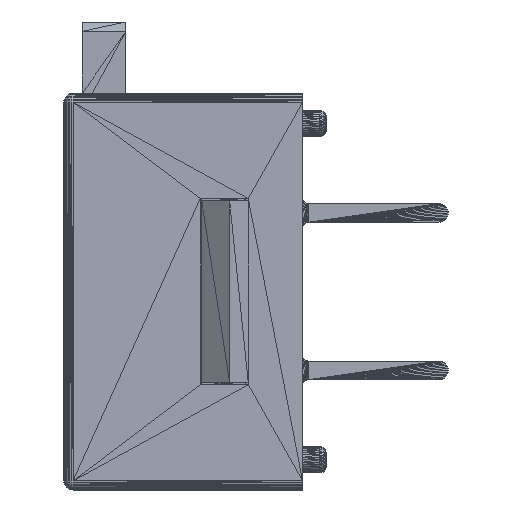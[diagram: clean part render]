
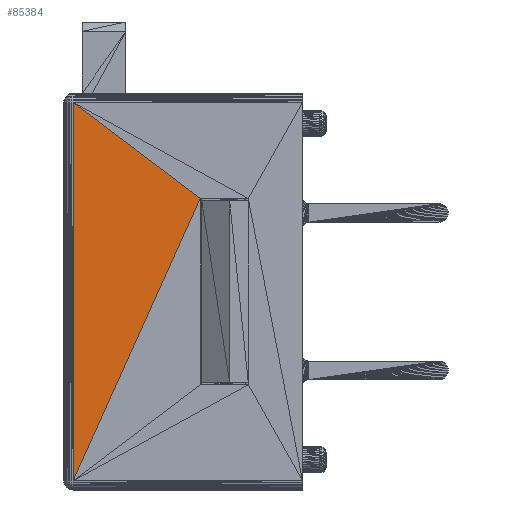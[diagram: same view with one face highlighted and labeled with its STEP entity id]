
A CAD part, left-side view. The second image highlights one B-rep face of the part: STEP entity #85384.
In plain terms, the highlighted planar face has unit normal (-1, 0, 0).
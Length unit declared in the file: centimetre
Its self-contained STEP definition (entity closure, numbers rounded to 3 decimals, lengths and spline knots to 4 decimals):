
#1792=DIRECTION('',(0.,0.798,0.603));
#1795=DIRECTION('',(0.,0.411,-0.912));
#2199=DIRECTION('',(0.,0.,1.));
#6272=VECTOR('',#1792,1.);
#6275=VECTOR('',#1795,1.);
#6679=VECTOR('',#2199,1.);
#11687=CARTESIAN_POINT('',(-0.7,0.33,0.3));
#11729=CARTESIAN_POINT('',(-0.7,0.74,-0.61));
#11730=CARTESIAN_POINT('',(-0.7,0.74,0.61));
#15453=VERTEX_POINT('',#11687);
#15495=VERTEX_POINT('',#11729);
#15496=VERTEX_POINT('',#11730);
#20944=LINE('',#11687,#6275);
#20994=LINE('',#11687,#6272);
#21092=LINE('',#11729,#6679);
#30551=EDGE_CURVE('',#15453,#15495,#20944,.T.);
#30601=EDGE_CURVE('',#15453,#15496,#20994,.T.);
#30699=EDGE_CURVE('',#15495,#15496,#21092,.T.);
#40208=ORIENTED_EDGE('',*,*,#30601,.T.);
#49765=ORIENTED_EDGE('',*,*,#30551,.F.);
#49913=ORIENTED_EDGE('',*,*,#30699,.F.);
#57789=EDGE_LOOP('',(#40208,#49913,#49765));
#63308=FACE_OUTER_BOUND('',#57789,.T.);
#71542=DIRECTION('',(-1.,0.,0.));
#71543=AXIS2_PLACEMENT_3D('',#11687,#71542,#1792);
#79865=PLANE('',#71543);
#85384=ADVANCED_FACE('',(#63308),#79865,.T.);
